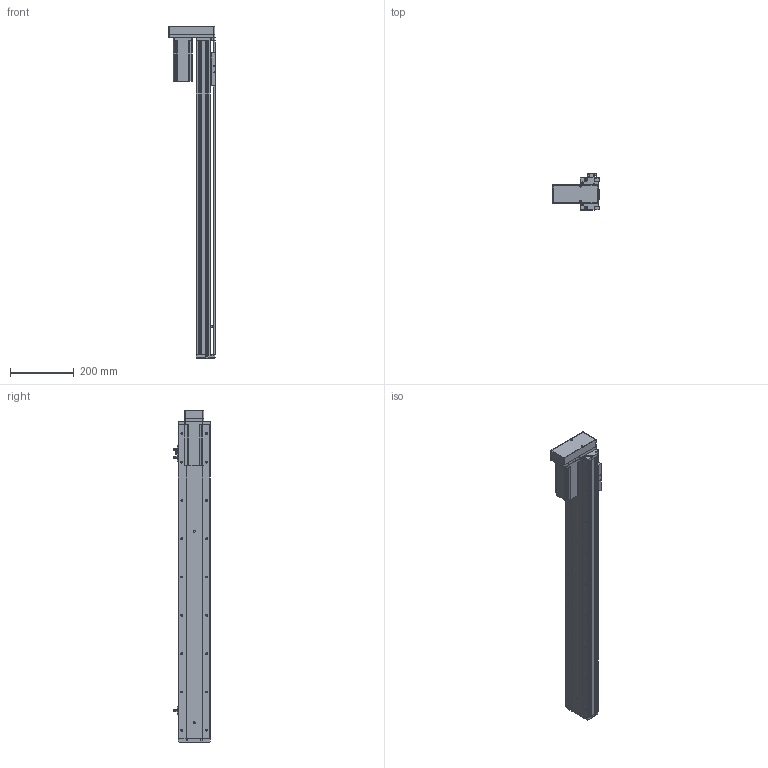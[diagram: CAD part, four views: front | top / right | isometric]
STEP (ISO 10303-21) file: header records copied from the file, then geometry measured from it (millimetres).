
FILE_DESCRIPTION (( 'STEP AP214' ), '1' );
FILE_NAME ('KSD100S-S800-MD-CM.STEP', '2019-08-30T03:39:27', ( '微软用户' ), ( '微软中国' ), 'SwSTEP 2.0', 'SolidWorks 2014', '' );
FILE_SCHEMA (( 'AUTOMOTIVE_DESIGN' ));
Length unit declared in the file: millimetre
Products named in the file (11): KSD100S-S800-MD-CM; 悵誘欶奻狟殏; 100宽马达安装板连板上下折丝杆同步带; 台达ECMA－C20604AS伺服电机; 覜茼え100遵圉猾敕; U倰嫖萇EEㄜSX672; 100宽防尘板丝杆800行程; 100遵鎮湛假蚾啣; 100宽滚珠螺姆安装板半封闭; 100遵傷啣; 100宽底板半封闭丝杆800行程
Assembly tree (12 placements, depth 2):
  KSD100S-S800-MD-CM
    100宽底板半封闭丝杆800行程
    100遵傷啣
    100宽滚珠螺姆安装板半封闭
    100遵鎮湛假蚾啣
    100宽防尘板丝杆800行程
    U倰嫖萇EEㄜSX672  x3
    覜茼え100遵圉猾敕
    台达ECMA－C20604AS伺服电机
    100宽马达安装板连板上下折丝杆同步带
    悵誘欶奻狟殏
Bounding box: 147 x 113.7 x 1040.5 mm (x, y, z)
Volume: 2496878.1 mm3; surface area: 806586.7 mm2
Topology: 13 solids, 13 shells, 1309 faces, 3692 edges, 2331 vertices
Faces by surface type: cylinder 650, plane 512, cone 147
Entity records: 47165 total; most frequent: CARTESIAN_POINT 9093, DIRECTION 6235, ORIENTED_EDGE 5996, EDGE_CURVE 2998, AXIS2_PLACEMENT_3D 2277, VERTEX_POINT 1955, LINE 1681, VECTOR 1681
